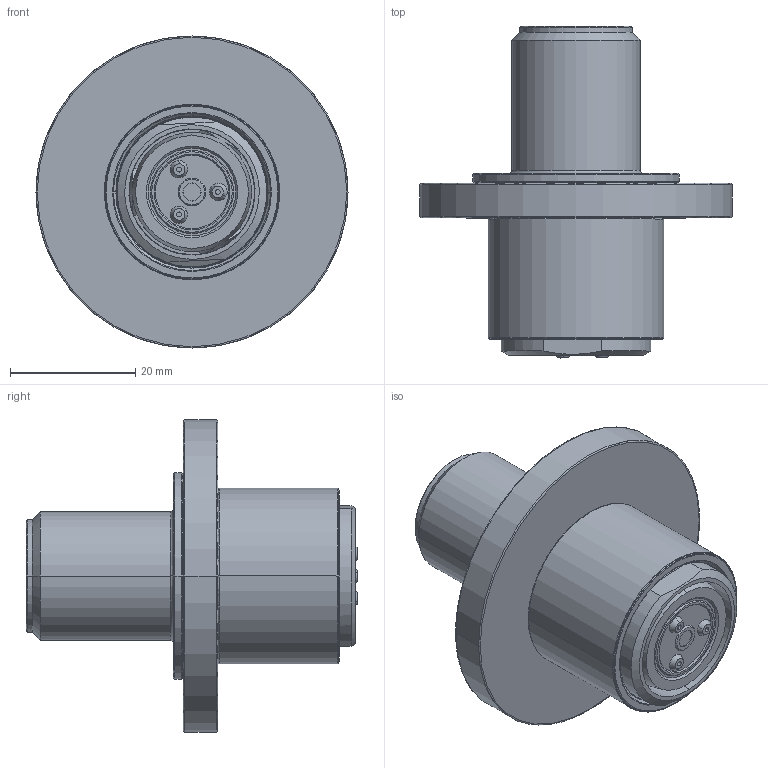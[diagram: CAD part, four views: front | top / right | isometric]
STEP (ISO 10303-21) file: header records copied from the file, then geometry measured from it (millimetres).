
FILE_DESCRIPTION(/* description */ (''),/* implementation_level */ '2;1');
FILE_NAME(/* name */ 'F1610M',/* time_stamp */ '2025-05-16T16:52:45+02:00',/* author */ (''),/* organization */ (''),/* preprocessor_version */ 'ST-DEVELOPER v19.2',/* originating_system */ 'Rhino 8.1',/* authorisation */ '');
FILE_SCHEMA (('CONFIG_CONTROL_DESIGN'));
Length unit declared in the file: centimetre
Products named in the file (1): Document
Bounding box: 49.8 x 52.97 x 49.8 mm (x, y, z)
Volume: 23628.9 mm3; surface area: 18824.7 mm2
Topology: 6 solids, 6 shells, 2570 faces, 6596 edges, 4301 vertices
Faces by surface type: plane 2119, bspline 306, cylinder 145
Entity records: 101184 total; most frequent: CARTESIAN_POINT 52496, ORIENTED_EDGE 13192, EDGE_CURVE 6596, B_SPLINE_CURVE_WITH_KNOTS 5883, VERTEX_POINT 4301, DIRECTION 3692, AXIS2_PLACEMENT_3D 2978, EDGE_LOOP 2843
